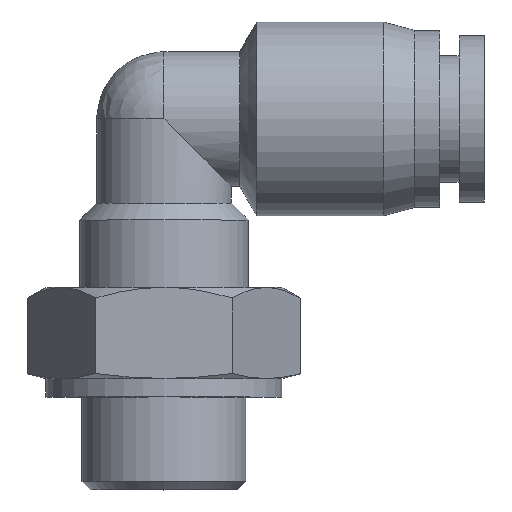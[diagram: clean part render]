
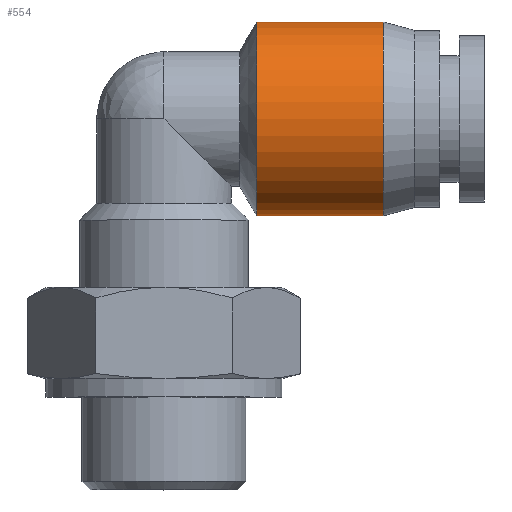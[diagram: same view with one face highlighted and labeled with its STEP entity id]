
A CAD part, top view. The second image highlights one B-rep face of the part: STEP entity #554.
In plain terms, the highlighted cylindrical face has radius 5.75 mm (diameter 11.5 mm), a full revolution.
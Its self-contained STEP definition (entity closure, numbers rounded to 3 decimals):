
#86=FACE_BOUND($,#194,.T.);
#103=CYLINDRICAL_SURFACE($,#627,5.75);
#140=FACE_OUTER_BOUND($,#193,.T.);
#193=EDGE_LOOP($,(#486));
#194=EDGE_LOOP($,(#487));
#235=CIRCLE($,#626,5.75);
#236=CIRCLE($,#628,5.75);
#287=VERTEX_POINT($,#1032);
#288=VERTEX_POINT($,#1035);
#356=EDGE_CURVE($,#287,#287,#235,.T.);
#357=EDGE_CURVE($,#288,#288,#236,.T.);
#486=ORIENTED_EDGE($,*,*,#357,.F.);
#487=ORIENTED_EDGE($,*,*,#356,.T.);
#554=ADVANCED_FACE($,(#140,#86),#103,.T.);
#626=AXIS2_PLACEMENT_3D($,#1033,#772,#773);
#627=AXIS2_PLACEMENT_3D($,#1034,#774,#775);
#628=AXIS2_PLACEMENT_3D($,#1036,#776,#777);
#772=DIRECTION('center_axis',(1.,0.,0.));
#773=DIRECTION('ref_axis',(0.,1.,0.));
#774=DIRECTION('center_axis',(1.,0.,0.));
#775=DIRECTION('ref_axis',(0.,1.,0.));
#776=DIRECTION('center_axis',(1.,0.,0.));
#777=DIRECTION('ref_axis',(0.,1.,0.));
#1032=CARTESIAN_POINT('',(5.5,5.75,0.));
#1033=CARTESIAN_POINT('Origin',(5.5,0.,0.));
#1034=CARTESIAN_POINT('Origin',(9.25,0.,0.));
#1035=CARTESIAN_POINT('',(13.,5.75,0.));
#1036=CARTESIAN_POINT('Origin',(13.,0.,0.));
